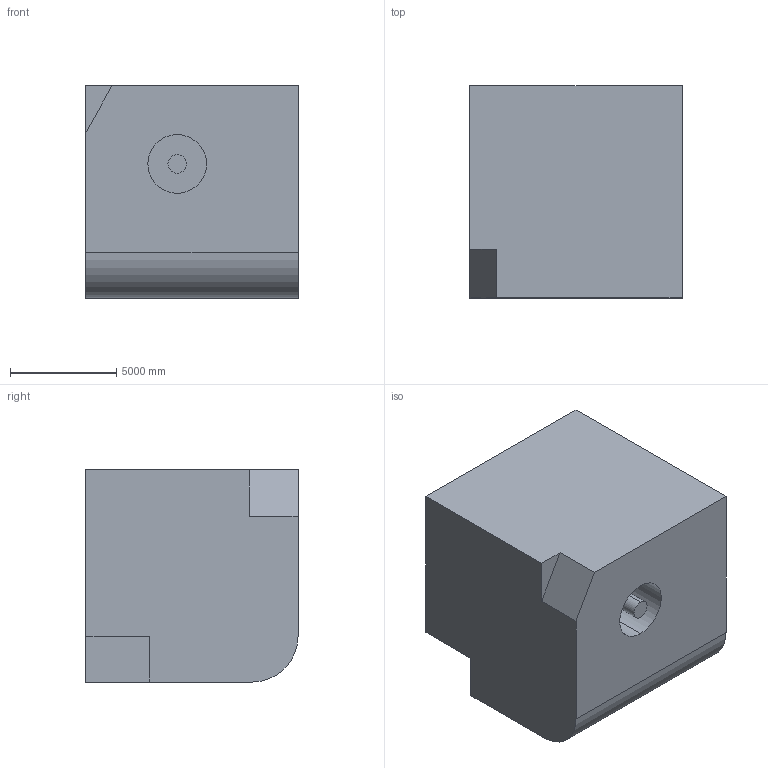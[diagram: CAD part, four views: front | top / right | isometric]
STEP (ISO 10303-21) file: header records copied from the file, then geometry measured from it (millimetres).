
FILE_DESCRIPTION (( 'STEP AP203' ), '1' );
FILE_NAME ('310.STEP', '2022-09-07T12:46:48', ( 'user' ), ( '' ), 'SwSTEP 2.0', 'SolidWorks 2021', '' );
FILE_SCHEMA (( 'CONFIG_CONTROL_DESIGN' ));
Length unit declared in the file: centimetre
Products named in the file (1): 310
Bounding box: 10000 x 10000 x 10000 mm (x, y, z)
Volume: 893977367346.1 mm3; surface area: 704728563.5 mm2
Topology: 1 solids, 1 shells, 30 faces, 66 edges, 44 vertices
Faces by surface type: plane 17, cylinder 13
Entity records: 913 total; most frequent: DIRECTION 154, CARTESIAN_POINT 141, ORIENTED_EDGE 132, EDGE_CURVE 66, AXIS2_PLACEMENT_3D 57, VERTEX_POINT 44, LINE 40, VECTOR 40
